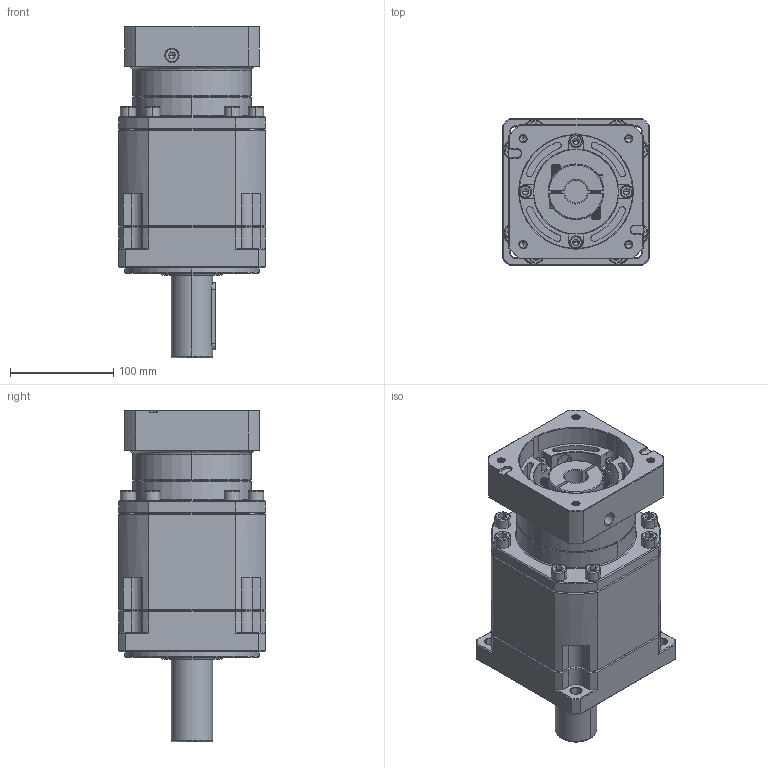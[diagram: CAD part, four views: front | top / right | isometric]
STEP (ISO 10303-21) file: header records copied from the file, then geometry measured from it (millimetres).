
FILE_DESCRIPTION (( 'STEP AP214' ), '1' );
FILE_NAME ('ZB142A-D40-L3-22-110-145-M8.step', '2023-03-18T07:06:04', ( '' ), ( '' ), 'SwSTEP 2.0', 'SolidWorks 2016', '' );
FILE_SCHEMA (( 'AUTOMOTIVE_DESIGN' ));
Length unit declared in the file: millimetre
Products named in the file (1): ZB142A-D40-L3-22-110-145-M8
Bounding box: 142 x 142 x 321.2 mm (x, y, z)
Volume: 3704013.2 mm3; surface area: 275381.8 mm2
Topology: 6 solids, 6 shells, 2322 faces, 6016 edges, 3809 vertices
Faces by surface type: plane 1051, cylinder 517, cone 389, bspline 309, torus 56
Entity records: 123223 total; most frequent: CARTESIAN_POINT 43612, ORIENTED_EDGE 11924, DIRECTION 10133, EDGE_CURVE 5962, VERTEX_POINT 3809, VECTOR 3665, LINE 3665, AXIS2_PLACEMENT_3D 3234
